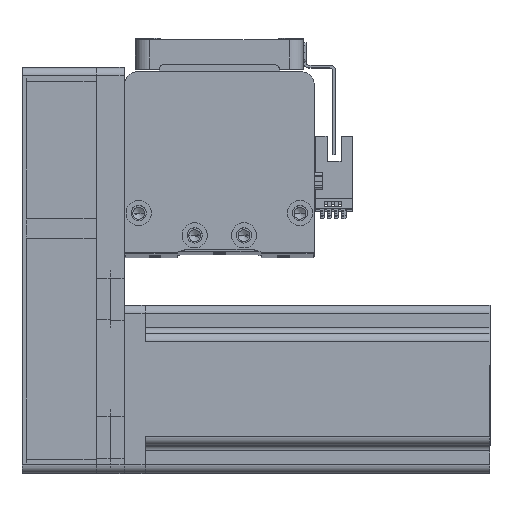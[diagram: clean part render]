
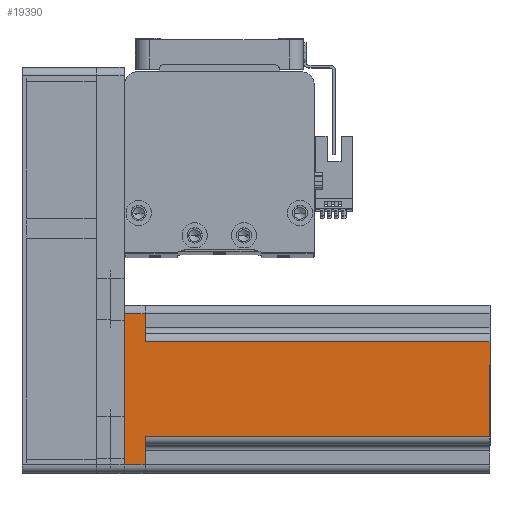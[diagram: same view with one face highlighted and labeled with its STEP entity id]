
A CAD part, top view. The second image highlights one B-rep face of the part: STEP entity #19390.
In plain terms, the highlighted planar face has unit normal (0, 0, 1) as drawn and (0, -1, 0) by its records, which use the part's own axes.
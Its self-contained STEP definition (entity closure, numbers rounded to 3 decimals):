
#1474 = EDGE_CURVE ( 'NONE', #15113, #26232, #40059, .T. ) ;
#1795 = CARTESIAN_POINT ( 'NONE',  ( -17., -30., 130.7 ) ) ;
#2161 = VECTOR ( 'NONE', #5942, 1000. ) ;
#2807 = EDGE_CURVE ( 'NONE', #36837, #11564, #14596, .T. ) ;
#2818 = DIRECTION ( 'NONE',  ( -1., 0., 0. ) ) ;
#5478 = LINE ( 'NONE', #20384, #33204 ) ;
#5828 = CARTESIAN_POINT ( 'NONE',  ( -20., -30., 7.5 ) ) ;
#5942 = DIRECTION ( 'NONE',  ( -1., 0., 0. ) ) ;
#7149 = ORIENTED_EDGE ( 'NONE', *, *, #9052, .T. ) ;
#8716 = EDGE_LOOP ( 'NONE', ( #40188, #7149, #22305, #41989, #13510, #19771, #44309, #40690 ) ) ;
#8969 = LINE ( 'NONE', #35351, #46413 ) ;
#9052 = EDGE_CURVE ( 'NONE', #18680, #32549, #10946, .T. ) ;
#9131 = VECTOR ( 'NONE', #42079, 1000. ) ;
#10273 = LINE ( 'NONE', #5828, #9131 ) ;
#10285 = VERTEX_POINT ( 'NONE', #12802 ) ;
#10364 = CARTESIAN_POINT ( 'NONE',  ( -27., -30., 130.7 ) ) ;
#10946 = LINE ( 'NONE', #37162, #29031 ) ;
#11564 = VERTEX_POINT ( 'NONE', #35060 ) ;
#12269 = EDGE_CURVE ( 'NONE', #18680, #10285, #5478, .T. ) ;
#12802 = CARTESIAN_POINT ( 'NONE',  ( 17., -30., 130.7 ) ) ;
#12940 = LINE ( 'NONE', #27549, #2161 ) ;
#13510 = ORIENTED_EDGE ( 'NONE', *, *, #16193, .T. ) ;
#14596 = LINE ( 'NONE', #10364, #42371 ) ;
#14783 = LINE ( 'NONE', #36221, #43718 ) ;
#15113 = VERTEX_POINT ( 'NONE', #42577 ) ;
#15269 = EDGE_CURVE ( 'NONE', #16594, #10285, #14783, .T. ) ;
#16193 = EDGE_CURVE ( 'NONE', #11564, #15113, #8969, .T. ) ;
#16594 = VERTEX_POINT ( 'NONE', #35481 ) ;
#18436 = CARTESIAN_POINT ( 'NONE',  ( 27., -30., 7.5 ) ) ;
#18680 = VERTEX_POINT ( 'NONE', #1795 ) ;
#19390 = ADVANCED_FACE ( 'NONE', ( #27724 ), #20711, .F. ) ;
#19771 = ORIENTED_EDGE ( 'NONE', *, *, #1474, .T. ) ;
#20384 = CARTESIAN_POINT ( 'NONE',  ( 30., -30., 130.7 ) ) ;
#20711 = PLANE ( 'NONE',  #40069 ) ;
#21916 = CARTESIAN_POINT ( 'NONE',  ( -27., -30., 7.5 ) ) ;
#22305 = ORIENTED_EDGE ( 'NONE', *, *, #38260, .F. ) ;
#24040 = DIRECTION ( 'NONE',  ( 1., 0., 0. ) ) ;
#24499 = DIRECTION ( 'NONE',  ( 0., 1., 0. ) ) ;
#26232 = VERTEX_POINT ( 'NONE', #18436 ) ;
#26318 = DIRECTION ( 'NONE',  ( 0., 0., -1. ) ) ;
#27357 = DIRECTION ( 'NONE',  ( 0., 0., 1. ) ) ;
#27510 = CARTESIAN_POINT ( 'NONE',  ( 27., -30., 130.7 ) ) ;
#27549 = CARTESIAN_POINT ( 'NONE',  ( 20., -30., 7.5 ) ) ;
#27724 = FACE_OUTER_BOUND ( 'NONE', #8716, .T. ) ;
#28186 = EDGE_CURVE ( 'NONE', #26232, #16594, #12940, .T. ) ;
#29031 = VECTOR ( 'NONE', #26318, 1000. ) ;
#30379 = VECTOR ( 'NONE', #27357, 1000. ) ;
#32549 = VERTEX_POINT ( 'NONE', #41685 ) ;
#33204 = VECTOR ( 'NONE', #24040, 1000. ) ;
#35060 = CARTESIAN_POINT ( 'NONE',  ( -27., -30., 0. ) ) ;
#35351 = CARTESIAN_POINT ( 'NONE',  ( 30., -30., 0. ) ) ;
#35481 = CARTESIAN_POINT ( 'NONE',  ( 17., -30., 7.5 ) ) ;
#35705 = DIRECTION ( 'NONE',  ( 0., 0., -1. ) ) ;
#36221 = CARTESIAN_POINT ( 'NONE',  ( 17., -30., 130.7 ) ) ;
#36837 = VERTEX_POINT ( 'NONE', #21916 ) ;
#37162 = CARTESIAN_POINT ( 'NONE',  ( -17., -30., 130.7 ) ) ;
#38260 = EDGE_CURVE ( 'NONE', #36837, #32549, #10273, .T. ) ;
#39857 = DIRECTION ( 'NONE',  ( 0., 0., 1. ) ) ;
#40059 = LINE ( 'NONE', #27510, #30379 ) ;
#40069 = AXIS2_PLACEMENT_3D ( 'NONE', #46261, #24499, #2818 ) ;
#40188 = ORIENTED_EDGE ( 'NONE', *, *, #12269, .F. ) ;
#40690 = ORIENTED_EDGE ( 'NONE', *, *, #15269, .T. ) ;
#41685 = CARTESIAN_POINT ( 'NONE',  ( -17., -30., 7.5 ) ) ;
#41989 = ORIENTED_EDGE ( 'NONE', *, *, #2807, .T. ) ;
#42079 = DIRECTION ( 'NONE',  ( 1., 0., 0. ) ) ;
#42371 = VECTOR ( 'NONE', #35705, 1000. ) ;
#42577 = CARTESIAN_POINT ( 'NONE',  ( 27., -30., 0. ) ) ;
#42658 = DIRECTION ( 'NONE',  ( 1., 0., 0. ) ) ;
#43718 = VECTOR ( 'NONE', #39857, 1000. ) ;
#44309 = ORIENTED_EDGE ( 'NONE', *, *, #28186, .T. ) ;
#46261 = CARTESIAN_POINT ( 'NONE',  ( 30., -30., 130.7 ) ) ;
#46413 = VECTOR ( 'NONE', #42658, 1000. ) ;
